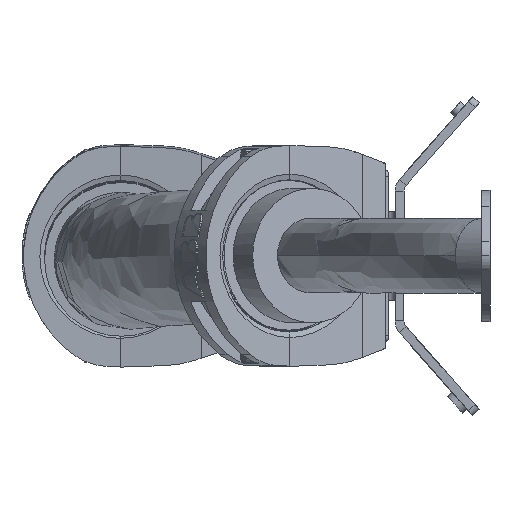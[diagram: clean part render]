
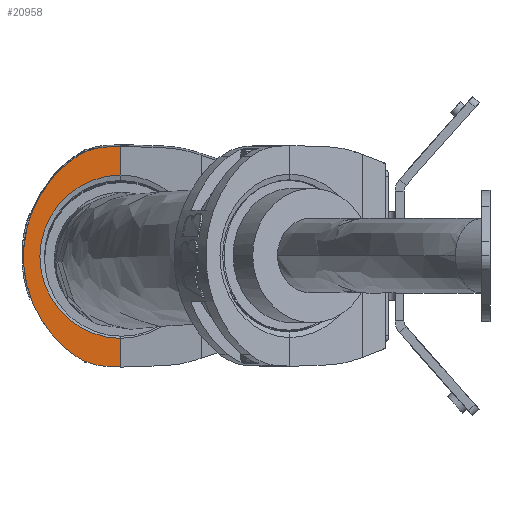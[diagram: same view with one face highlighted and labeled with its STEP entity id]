
A CAD part, left-side view. The second image highlights one B-rep face of the part: STEP entity #20958.
In plain terms, the highlighted planar face has unit normal (-0.999, -0.035, -0.028).
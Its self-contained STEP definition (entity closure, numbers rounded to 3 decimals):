
#400 = CARTESIAN_POINT ( 'NONE',  ( 1700.465, 417.497, 2493.546 ) ) ;
#894 = CARTESIAN_POINT ( 'NONE',  ( 1703.966, 336.5, 2469.682 ) ) ;
#957 =( BOUNDED_CURVE ( )  B_SPLINE_CURVE ( 3, ( #7774, #2279, #14969, #14858 ),
 .UNSPECIFIED., .F., .F. ) 
 B_SPLINE_CURVE_WITH_KNOTS ( ( 4, 4 ),
 ( 1.606, 2.184 ),
 .UNSPECIFIED. ) 
 CURVE ( )  GEOMETRIC_REPRESENTATION_ITEM ( )  RATIONAL_B_SPLINE_CURVE ( ( 1., 0.972, 0.972, 1. ) ) 
 REPRESENTATION_ITEM ( '' )  );
#1660 = CARTESIAN_POINT ( 'NONE',  ( 1699.496, 367.098, 2590.62 ) ) ;
#2029 = AXIS2_PLACEMENT_3D ( 'NONE', #13309, #13187, #4637 ) ;
#2041 = VERTEX_POINT ( 'NONE', #6964 ) ;
#2279 = CARTESIAN_POINT ( 'NONE',  ( 1699.782, 353.294, 2597.615 ) ) ;
#2375 = DIRECTION ( 'NONE',  ( -0.034, 0.999, -0.036 ) ) ;
#3288 = DIRECTION ( 'NONE',  ( 0.999, 0.035, 0.028 ) ) ;
#4278 = VERTEX_POINT ( 'NONE', #15324 ) ;
#4611 = DIRECTION ( 'NONE',  ( 0.028, 0., -1. ) ) ;
#4637 = DIRECTION ( 'NONE',  ( 0., 0.627, -0.779 ) ) ;
#5236 = DIRECTION ( 'NONE',  ( -0.035, 0.999, -0.001 ) ) ;
#5504 = CIRCLE ( 'NONE', #16572, 54.766 ) ;
#5513 = LINE ( 'NONE', #16137, #6872 ) ;
#5623 =( BOUNDED_CURVE ( )  B_SPLINE_CURVE ( 3, ( #1660, #8639, #400, #7603 ),
 .UNSPECIFIED., .F., .T. ) 
 B_SPLINE_CURVE_WITH_KNOTS ( ( 4, 4 ),
 ( 2.184, 4.099 ),
 .UNSPECIFIED. ) 
 CURVE ( )  GEOMETRIC_REPRESENTATION_ITEM ( )  RATIONAL_B_SPLINE_CURVE ( ( 1., 0.717, 0.717, 1. ) ) 
 REPRESENTATION_ITEM ( '' )  );
#5711 = DIRECTION ( 'NONE',  ( 0.028, 0., -1. ) ) ;
#5718 = EDGE_CURVE ( 'NONE', #6135, #15440, #7301, .T. ) ;
#5738 = DIRECTION ( 'NONE',  ( -0.036, 0.999, 0.034 ) ) ;
#6058 = ORIENTED_EDGE ( 'NONE', *, *, #7884, .T. ) ;
#6113 = EDGE_CURVE ( 'NONE', #13693, #4278, #18514, .T. ) ;
#6135 = VERTEX_POINT ( 'NONE', #894 ) ;
#6200 = ORIENTED_EDGE ( 'NONE', *, *, #21388, .F. ) ;
#6419 = VERTEX_POINT ( 'NONE', #14056 ) ;
#6872 = VECTOR ( 'NONE', #5738, 1000. ) ;
#6964 = CARTESIAN_POINT ( 'NONE',  ( 1700.887, 336.5, 2579.162 ) ) ;
#7301 = LINE ( 'NONE', #9046, #9329 ) ;
#7354 = CARTESIAN_POINT ( 'NONE',  ( 1703.57, 360.704, 2453.675 ) ) ;
#7603 = CARTESIAN_POINT ( 'NONE',  ( 1703.221, 367.098, 2458.163 ) ) ;
#7774 = CARTESIAN_POINT ( 'NONE',  ( 1700.047, 345.483, 2597.895 ) ) ;
#7884 = EDGE_CURVE ( 'NONE', #9147, #8747, #5623, .T. ) ;
#7920 = CARTESIAN_POINT ( 'NONE',  ( 1704.502, 336.5, 2450.625 ) ) ;
#8130 = EDGE_CURVE ( 'NONE', #15440, #6419, #5513, .T. ) ;
#8223 = ORIENTED_EDGE ( 'NONE', *, *, #6113, .T. ) ;
#8297 = CARTESIAN_POINT ( 'NONE',  ( 1704.502, 336.5, 2450.625 ) ) ;
#8639 = CARTESIAN_POINT ( 'NONE',  ( 1698.733, 417.497, 2555.138 ) ) ;
#8747 = VERTEX_POINT ( 'NONE', #17831 ) ;
#9012 = ORIENTED_EDGE ( 'NONE', *, *, #10666, .T. ) ;
#9046 = CARTESIAN_POINT ( 'NONE',  ( 1704.502, 336.5, 2450.625 ) ) ;
#9147 = VERTEX_POINT ( 'NONE', #19320 ) ;
#9329 = VECTOR ( 'NONE', #5711, 1000. ) ;
#10666 = EDGE_CURVE ( 'NONE', #6135, #2041, #5504, .T. ) ;
#11209 = CARTESIAN_POINT ( 'NONE',  ( 1703.899, 353.294, 2451.195 ) ) ;
#11429 = CARTESIAN_POINT ( 'NONE',  ( 1704.179, 345.483, 2450.93 ) ) ;
#11751 = EDGE_CURVE ( 'NONE', #4278, #9147, #957, .T. ) ;
#11981 =( BOUNDED_CURVE ( )  B_SPLINE_CURVE ( 3, ( #21915, #7354, #11209, #11429 ),
 .UNSPECIFIED., .F., .T. ) 
 B_SPLINE_CURVE_WITH_KNOTS ( ( 4, 4 ),
 ( 4.099, 4.677 ),
 .UNSPECIFIED. ) 
 CURVE ( )  GEOMETRIC_REPRESENTATION_ITEM ( )  RATIONAL_B_SPLINE_CURVE ( ( 1., 0.972, 0.972, 1. ) ) 
 REPRESENTATION_ITEM ( '' )  );
#13187 = DIRECTION ( 'NONE',  ( 0.999, 0.035, 0.028 ) ) ;
#13309 = CARTESIAN_POINT ( 'NONE',  ( 1703.317, 391.5, 2424.407 ) ) ;
#13693 = VERTEX_POINT ( 'NONE', #22557 ) ;
#13783 = CARTESIAN_POINT ( 'NONE',  ( 1702.452, 335.782, 2524.422 ) ) ;
#14056 = CARTESIAN_POINT ( 'NONE',  ( 1704.179, 345.483, 2450.93 ) ) ;
#14597 = EDGE_LOOP ( 'NONE', ( #22560, #21560, #19815, #9012, #6200, #8223, #22737, #6058 ) ) ;
#14858 = CARTESIAN_POINT ( 'NONE',  ( 1699.496, 367.098, 2590.62 ) ) ;
#14969 = CARTESIAN_POINT ( 'NONE',  ( 1699.593, 360.704, 2595.121 ) ) ;
#15324 = CARTESIAN_POINT ( 'NONE',  ( 1700.047, 345.483, 2597.895 ) ) ;
#15349 = VECTOR ( 'NONE', #2375, 1000. ) ;
#15440 = VERTEX_POINT ( 'NONE', #8297 ) ;
#15665 = EDGE_CURVE ( 'NONE', #8747, #6419, #11981, .T. ) ;
#16137 = CARTESIAN_POINT ( 'NONE',  ( 1704.499, 336.567, 2450.628 ) ) ;
#16572 = AXIS2_PLACEMENT_3D ( 'NONE', #13783, #3288, #5236 ) ;
#16606 = LINE ( 'NONE', #7920, #21542 ) ;
#17831 = CARTESIAN_POINT ( 'NONE',  ( 1703.221, 367.098, 2458.163 ) ) ;
#18157 = CARTESIAN_POINT ( 'NONE',  ( 1698.282, 397.488, 2596.029 ) ) ;
#18514 = LINE ( 'NONE', #18157, #15349 ) ;
#19320 = CARTESIAN_POINT ( 'NONE',  ( 1699.496, 367.098, 2590.62 ) ) ;
#19815 = ORIENTED_EDGE ( 'NONE', *, *, #5718, .F. ) ;
#20407 = PLANE ( 'NONE',  #2029 ) ;
#20958 = ADVANCED_FACE ( 'NONE', ( #22256 ), #20407, .F. ) ;
#21388 = EDGE_CURVE ( 'NONE', #13693, #2041, #16606, .T. ) ;
#21542 = VECTOR ( 'NONE', #4611, 1000. ) ;
#21560 = ORIENTED_EDGE ( 'NONE', *, *, #8130, .F. ) ;
#21915 = CARTESIAN_POINT ( 'NONE',  ( 1703.221, 367.098, 2458.163 ) ) ;
#22256 = FACE_OUTER_BOUND ( 'NONE', #14597, .T. ) ;
#22557 = CARTESIAN_POINT ( 'NONE',  ( 1700.351, 336.5, 2598.218 ) ) ;
#22560 = ORIENTED_EDGE ( 'NONE', *, *, #15665, .T. ) ;
#22737 = ORIENTED_EDGE ( 'NONE', *, *, #11751, .T. ) ;
